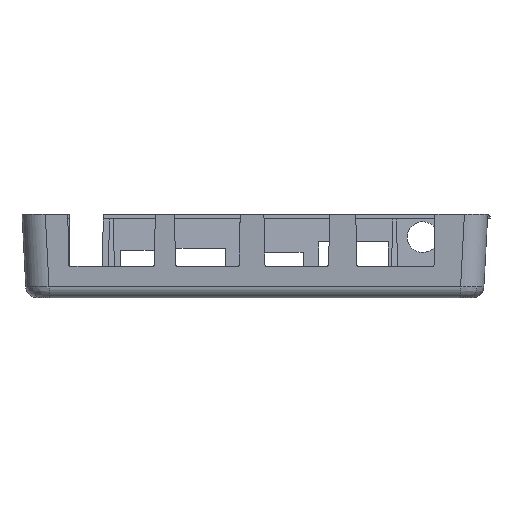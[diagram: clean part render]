
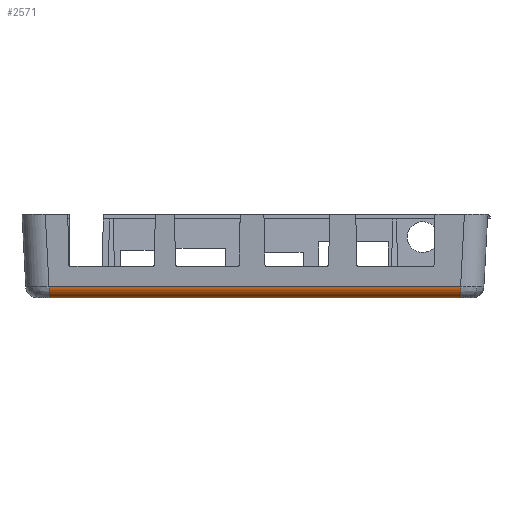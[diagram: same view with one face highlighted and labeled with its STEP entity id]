
A CAD part, front view. The second image highlights one B-rep face of the part: STEP entity #2571.
In plain terms, the highlighted cylindrical face has radius 2.5 mm (diameter 5 mm), a partial arc.
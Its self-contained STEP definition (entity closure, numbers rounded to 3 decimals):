
#545 = VERTEX_POINT ( 'NONE', #2554 ) ;
#651 = CARTESIAN_POINT ( 'NONE',  ( 44.193, -34.189, -3.5 ) ) ;
#834 = DIRECTION ( 'NONE',  ( 1., 0., 0. ) ) ;
#1758 = ORIENTED_EDGE ( 'NONE', *, *, #8608, .F. ) ;
#1833 = DIRECTION ( 'NONE',  ( 0., 0., -1. ) ) ;
#2193 = VERTEX_POINT ( 'NONE', #9903 ) ;
#2554 = CARTESIAN_POINT ( 'NONE',  ( 44.193, -36.686, -3.631 ) ) ;
#2571 = ADVANCED_FACE ( 'NONE', ( #9734 ), #3445, .T. ) ;
#2657 = DIRECTION ( 'NONE',  ( 1., 0., 0. ) ) ;
#2897 = AXIS2_PLACEMENT_3D ( 'NONE', #651, #8892, #1833 ) ;
#3037 = EDGE_CURVE ( 'NONE', #4686, #545, #9719, .T. ) ;
#3445 = CYLINDRICAL_SURFACE ( 'NONE', #9107, 2.5 ) ;
#3549 = ORIENTED_EDGE ( 'NONE', *, *, #12972, .T. ) ;
#4377 = ORIENTED_EDGE ( 'NONE', *, *, #10559, .F. ) ;
#4492 = CARTESIAN_POINT ( 'NONE',  ( -44.193, -36.686, -3.631 ) ) ;
#4643 = CIRCLE ( 'NONE', #2897, 2.5 ) ;
#4686 = VERTEX_POINT ( 'NONE', #4492 ) ;
#5009 = DIRECTION ( 'NONE',  ( 0., 0., -1. ) ) ;
#6158 = CARTESIAN_POINT ( 'NONE',  ( -50., -34.189, -3.5 ) ) ;
#6214 = CARTESIAN_POINT ( 'NONE',  ( 0., -34.189, -6. ) ) ;
#7870 = CARTESIAN_POINT ( 'NONE',  ( -44.193, -34.189, -3.5 ) ) ;
#8418 = DIRECTION ( 'NONE',  ( 1., 0., 0. ) ) ;
#8583 = DIRECTION ( 'NONE',  ( -1., 0., 0. ) ) ;
#8608 = EDGE_CURVE ( 'NONE', #13576, #2193, #9020, .T. ) ;
#8661 = VECTOR ( 'NONE', #8583, 1000. ) ;
#8892 = DIRECTION ( 'NONE',  ( 1., 0., 0. ) ) ;
#9020 = LINE ( 'NONE', #6214, #8661 ) ;
#9083 = DIRECTION ( 'NONE',  ( 0., 0., -1. ) ) ;
#9107 = AXIS2_PLACEMENT_3D ( 'NONE', #6158, #2657, #5009 ) ;
#9153 = AXIS2_PLACEMENT_3D ( 'NONE', #7870, #834, #9083 ) ;
#9719 = LINE ( 'NONE', #14327, #15256 ) ;
#9734 = FACE_OUTER_BOUND ( 'NONE', #13708, .T. ) ;
#9903 = CARTESIAN_POINT ( 'NONE',  ( -44.193, -34.189, -6. ) ) ;
#9946 = CIRCLE ( 'NONE', #9153, 2.5 ) ;
#10559 = EDGE_CURVE ( 'NONE', #545, #13576, #4643, .T. ) ;
#12972 = EDGE_CURVE ( 'NONE', #4686, #2193, #9946, .T. ) ;
#13576 = VERTEX_POINT ( 'NONE', #15339 ) ;
#13708 = EDGE_LOOP ( 'NONE', ( #3549, #1758, #4377, #14106 ) ) ;
#14106 = ORIENTED_EDGE ( 'NONE', *, *, #3037, .F. ) ;
#14327 = CARTESIAN_POINT ( 'NONE',  ( -50., -36.686, -3.631 ) ) ;
#15256 = VECTOR ( 'NONE', #8418, 1000. ) ;
#15339 = CARTESIAN_POINT ( 'NONE',  ( 44.193, -34.189, -6. ) ) ;
